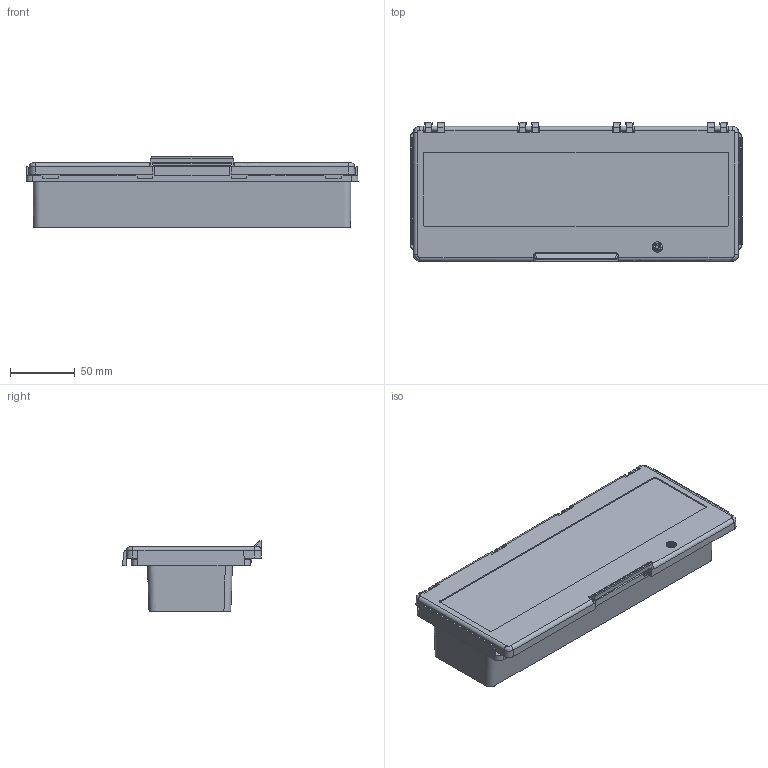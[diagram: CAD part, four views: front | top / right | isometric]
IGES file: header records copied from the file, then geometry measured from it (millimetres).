
Start section: SolidWorks IGES file using analytic representation for surfaces
Global section: file name: G:\3DRAW\EK\3DCAM\Accessories\Solidpart\FIBOX_L13.IGS; native system: SolidWorks 2009; preprocessor: SolidWorks 2009; author: KennethW; date: 100304.150705; units: millimetre
Bounding box: 257.2 x 107.24 x 54.68 mm (x, y, z)
Surface area: 164039.8 mm2 (no closed solid volume)
Topology: 0 solids, 0 shells, 440 faces, 4340 edges, 4339 vertices
Faces by surface type: bspline 309, revolution 131
